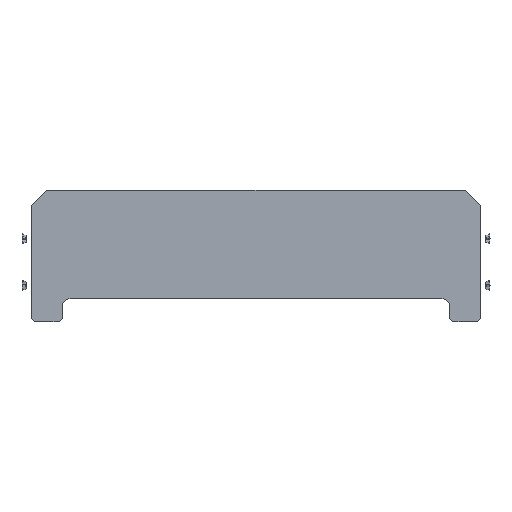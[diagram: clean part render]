
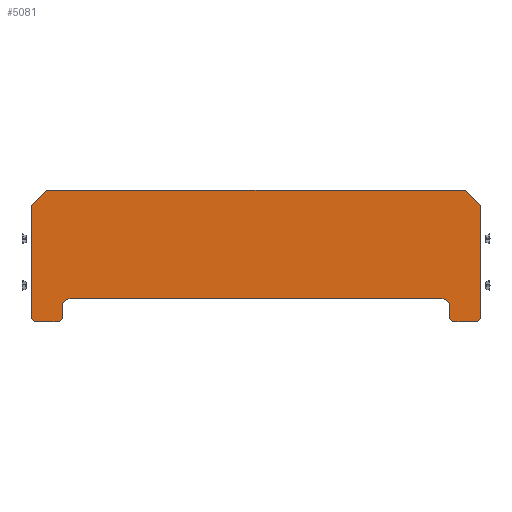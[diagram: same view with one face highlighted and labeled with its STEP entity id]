
A CAD part, top view. The second image highlights one B-rep face of the part: STEP entity #5081.
In plain terms, the highlighted planar face has unit normal (0, 0, 1).
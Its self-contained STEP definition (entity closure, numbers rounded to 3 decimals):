
#4176=CARTESIAN_POINT(' ',(-145.,25.,10.));
#4181=DIRECTION(' ',(0.,-1.,0.));
#4186=VECTOR(' ',#4181,1.);
#4191=LINE('',#4176,#4186);
#4196=CARTESIAN_POINT(' ',(-145.,25.,10.));
#4197=VERTEX_POINT(' ',#4196);
#4201=CARTESIAN_POINT(' ',(-145.,-48.,10.));
#4202=VERTEX_POINT(' ',#4201);
#4206=EDGE_CURVE(' ',#4197,#4202,#4191,.T.);
#4441=DIRECTION(' ',(-0.,0.,1.));
#4446=CARTESIAN_POINT(' ',(-145.,-50.,10.));
#4451=DIRECTION(' ',(1.,0.,0.));
#4456=AXIS2_PLACEMENT_3D(' ',#4446,#4441,#4451);
#4461=PLANE('NONE',#4456);
#4466=CARTESIAN_POINT(' ',(-127.,-50.,10.));
#4471=DIRECTION(' ',(0.707,0.707,0.));
#4476=VECTOR(' ',#4471,1.);
#4481=LINE('',#4466,#4476);
#4486=CARTESIAN_POINT(' ',(-127.,-50.,10.));
#4487=VERTEX_POINT(' ',#4486);
#4491=CARTESIAN_POINT(' ',(-125.,-48.,10.));
#4492=VERTEX_POINT(' ',#4491);
#4496=EDGE_CURVE(' ',#4487,#4492,#4481,.T.);
#4501=ORIENTED_EDGE(' ',*,*,#4496,.T.);
#4506=CARTESIAN_POINT(' ',(-125.,-48.,10.));
#4511=DIRECTION(' ',(0.,1.,0.));
#4516=VECTOR(' ',#4511,1.);
#4521=LINE('',#4506,#4516);
#4526=CARTESIAN_POINT(' ',(-125.,-40.,10.));
#4527=VERTEX_POINT(' ',#4526);
#4531=EDGE_CURVE(' ',#4492,#4527,#4521,.T.);
#4536=ORIENTED_EDGE(' ',*,*,#4531,.T.);
#4541=CARTESIAN_POINT(' ',(-120.,-40.,10.));
#4546=DIRECTION(' ',(0.,-0.,-1.));
#4551=DIRECTION(' ',(-1.,0.,0.));
#4556=AXIS2_PLACEMENT_3D(' ',#4541,#4546,#4551);
#4561=CIRCLE('',#4556,5.);
#4566=CARTESIAN_POINT(' ',(-120.,-35.,10.));
#4567=VERTEX_POINT(' ',#4566);
#4571=EDGE_CURVE(' ',#4527,#4567,#4561,.T.);
#4576=ORIENTED_EDGE(' ',*,*,#4571,.T.);
#4581=CARTESIAN_POINT(' ',(-120.,-35.,10.));
#4586=DIRECTION(' ',(1.,0.,0.));
#4591=VECTOR(' ',#4586,1.);
#4596=LINE('',#4581,#4591);
#4601=CARTESIAN_POINT(' ',(-97.25,-35.,10.));
#4602=VERTEX_POINT(' ',#4601);
#4606=EDGE_CURVE(' ',#4567,#4602,#4596,.T.);
#4611=ORIENTED_EDGE(' ',*,*,#4606,.T.);
#4616=CARTESIAN_POINT(' ',(-97.25,-35.,10.));
#4621=DIRECTION(' ',(1.,0.,0.));
#4626=VECTOR(' ',#4621,1.);
#4631=LINE('',#4616,#4626);
#4636=CARTESIAN_POINT(' ',(97.25,-35.,10.));
#4637=VERTEX_POINT(' ',#4636);
#4641=EDGE_CURVE(' ',#4602,#4637,#4631,.T.);
#4646=ORIENTED_EDGE(' ',*,*,#4641,.T.);
#4651=CARTESIAN_POINT(' ',(97.25,-35.,10.));
#4656=DIRECTION(' ',(1.,0.,0.));
#4661=VECTOR(' ',#4656,1.);
#4666=LINE('',#4651,#4661);
#4671=CARTESIAN_POINT(' ',(120.,-35.,10.));
#4672=VERTEX_POINT(' ',#4671);
#4676=EDGE_CURVE(' ',#4637,#4672,#4666,.T.);
#4681=ORIENTED_EDGE(' ',*,*,#4676,.T.);
#4686=CARTESIAN_POINT(' ',(120.,-40.,10.));
#4691=DIRECTION(' ',(0.,0.,-1.));
#4696=DIRECTION(' ',(0.,1.,0.));
#4701=AXIS2_PLACEMENT_3D(' ',#4686,#4691,#4696);
#4706=CIRCLE('',#4701,5.);
#4711=CARTESIAN_POINT(' ',(125.,-40.,10.));
#4712=VERTEX_POINT(' ',#4711);
#4716=EDGE_CURVE(' ',#4672,#4712,#4706,.T.);
#4721=ORIENTED_EDGE(' ',*,*,#4716,.T.);
#4726=CARTESIAN_POINT(' ',(125.,-48.,10.));
#4731=DIRECTION(' ',(0.,1.,0.));
#4736=VECTOR(' ',#4731,1.);
#4741=LINE('',#4726,#4736);
#4746=CARTESIAN_POINT(' ',(125.,-48.,10.));
#4747=VERTEX_POINT(' ',#4746);
#4751=EDGE_CURVE(' ',#4747,#4712,#4741,.T.);
#4756=ORIENTED_EDGE(' ',*,*,#4751,.F.);
#4761=CARTESIAN_POINT(' ',(125.,-48.,10.));
#4766=DIRECTION(' ',(0.707,-0.707,0.));
#4771=VECTOR(' ',#4766,1.);
#4776=LINE('',#4761,#4771);
#4781=CARTESIAN_POINT(' ',(127.,-50.,10.));
#4782=VERTEX_POINT(' ',#4781);
#4786=EDGE_CURVE(' ',#4747,#4782,#4776,.T.);
#4791=ORIENTED_EDGE(' ',*,*,#4786,.T.);
#4796=CARTESIAN_POINT(' ',(143.,-50.,10.));
#4801=DIRECTION(' ',(-1.,0.,0.));
#4806=VECTOR(' ',#4801,1.);
#4811=LINE('',#4796,#4806);
#4816=CARTESIAN_POINT(' ',(143.,-50.,10.));
#4817=VERTEX_POINT(' ',#4816);
#4821=EDGE_CURVE(' ',#4817,#4782,#4811,.T.);
#4826=ORIENTED_EDGE(' ',*,*,#4821,.F.);
#4831=CARTESIAN_POINT(' ',(143.,-50.,10.));
#4836=DIRECTION(' ',(0.707,0.707,0.));
#4841=VECTOR(' ',#4836,1.);
#4846=LINE('',#4831,#4841);
#4851=CARTESIAN_POINT(' ',(145.,-48.,10.));
#4852=VERTEX_POINT(' ',#4851);
#4856=EDGE_CURVE(' ',#4817,#4852,#4846,.T.);
#4861=ORIENTED_EDGE(' ',*,*,#4856,.T.);
#4866=CARTESIAN_POINT(' ',(145.,25.,10.));
#4871=DIRECTION(' ',(0.,-1.,0.));
#4876=VECTOR(' ',#4871,1.);
#4881=LINE('',#4866,#4876);
#4886=CARTESIAN_POINT(' ',(145.,25.,10.));
#4887=VERTEX_POINT(' ',#4886);
#4891=EDGE_CURVE(' ',#4887,#4852,#4881,.T.);
#4896=ORIENTED_EDGE(' ',*,*,#4891,.F.);
#4901=CARTESIAN_POINT(' ',(145.,25.,10.));
#4906=DIRECTION(' ',(-0.707,0.707,0.));
#4911=VECTOR(' ',#4906,1.);
#4916=LINE('',#4901,#4911);
#4921=CARTESIAN_POINT(' ',(135.,35.,10.));
#4922=VERTEX_POINT(' ',#4921);
#4926=EDGE_CURVE(' ',#4887,#4922,#4916,.T.);
#4931=ORIENTED_EDGE(' ',*,*,#4926,.T.);
#4936=CARTESIAN_POINT(' ',(-135.,35.,10.));
#4941=DIRECTION(' ',(1.,0.,0.));
#4946=VECTOR(' ',#4941,1.);
#4951=LINE('',#4936,#4946);
#4956=CARTESIAN_POINT(' ',(-135.,35.,10.));
#4957=VERTEX_POINT(' ',#4956);
#4961=EDGE_CURVE(' ',#4957,#4922,#4951,.T.);
#4966=ORIENTED_EDGE(' ',*,*,#4961,.F.);
#4971=CARTESIAN_POINT(' ',(-135.,35.,10.));
#4976=DIRECTION(' ',(-0.707,-0.707,0.));
#4981=VECTOR(' ',#4976,1.);
#4986=LINE('',#4971,#4981);
#4991=EDGE_CURVE(' ',#4957,#4197,#4986,.T.);
#4996=ORIENTED_EDGE(' ',*,*,#4991,.T.);
#5001=ORIENTED_EDGE(' ',*,*,#4206,.T.);
#5006=CARTESIAN_POINT(' ',(-145.,-48.,10.));
#5011=DIRECTION(' ',(0.707,-0.707,0.));
#5016=VECTOR(' ',#5011,1.);
#5021=LINE('',#5006,#5016);
#5026=CARTESIAN_POINT(' ',(-143.,-50.,10.));
#5027=VERTEX_POINT(' ',#5026);
#5031=EDGE_CURVE(' ',#4202,#5027,#5021,.T.);
#5036=ORIENTED_EDGE(' ',*,*,#5031,.T.);
#5041=CARTESIAN_POINT(' ',(-127.,-50.,10.));
#5046=DIRECTION(' ',(-1.,0.,0.));
#5051=VECTOR(' ',#5046,1.);
#5056=LINE('',#5041,#5051);
#5061=EDGE_CURVE(' ',#4487,#5027,#5056,.T.);
#5066=ORIENTED_EDGE(' ',*,*,#5061,.F.);
#5071=EDGE_LOOP(' ',(#4501,#4536,#4576,#4611,#4646,#4681,#4721,#4756,#4791,#4826,#4861,#4896,#4931,#4966,#4996,#5001,#5036,#5066));
#5076=FACE_OUTER_BOUND(' ',#5071,.T.);
#5081=ADVANCED_FACE('NONE',(#5076),#4461,.T.);
